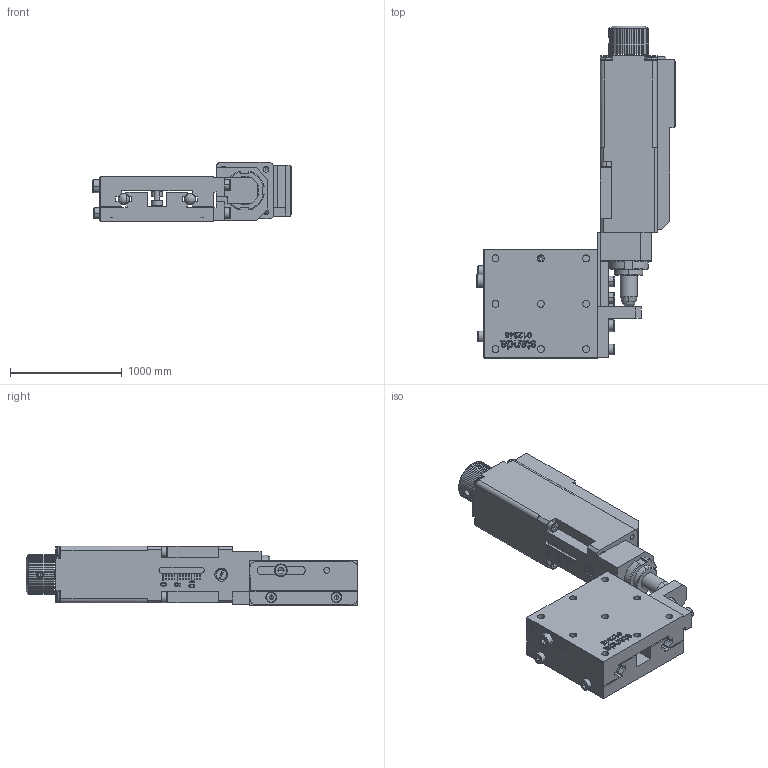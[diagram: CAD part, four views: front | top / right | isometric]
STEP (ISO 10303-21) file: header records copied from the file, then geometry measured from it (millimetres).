
FILE_DESCRIPTION (( 'STEP AP203' ), '1' );
FILE_NAME ('8MT184-13.STEP', '2005-10-18T04:26:27', ( 'Darius' ), ( '' ), 'SwSTEP 2.0', 'SolidWorks 2003240', '' );
FILE_SCHEMA (( 'CONFIG_CONTROL_DESIGN' ));
Products named in the file (1): 8MT184-13
Bounding box: 1783.08 x 2974.34 x 533.4 mm (x, y, z)
Volume: 841653271.2 mm3; surface area: 18809331.2 mm2
Topology: 1 solids, 69 shells, 2007 faces, 5095 edges, 3208 vertices
Faces by surface type: plane 983, cylinder 472, cone 279, bspline 273
Entity records: 85770 total; most frequent: CARTESIAN_POINT 39642, ORIENTED_EDGE 9818, DIRECTION 8872, EDGE_CURVE 4909, VERTEX_POINT 3208, AXIS2_PLACEMENT_3D 3187, VECTOR 2498, LINE 2498
